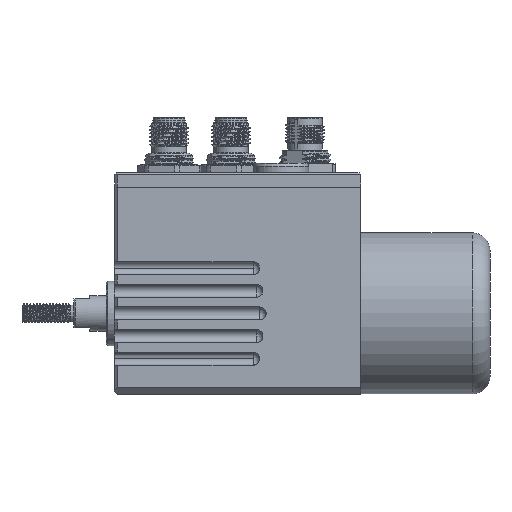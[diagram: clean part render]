
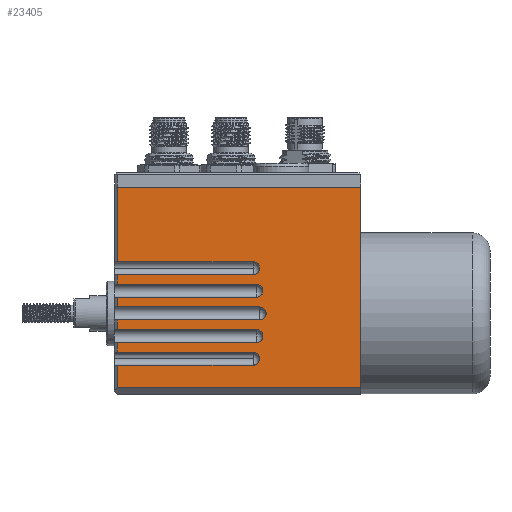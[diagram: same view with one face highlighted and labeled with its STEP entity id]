
A CAD part, front view. The second image highlights one B-rep face of the part: STEP entity #23405.
In plain terms, the highlighted planar face has unit normal (0, -1, 0).
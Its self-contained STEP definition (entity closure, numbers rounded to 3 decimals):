
#997=PLANE('',#25382);
#3446=FACE_OUTER_BOUND('',#4915,.T.);
#4915=EDGE_LOOP('',(#21233,#21234,#21235,#21236,#21237,#21238,#21239,#21240,
#21241,#21242,#21243,#21244,#21245,#21246,#21247,#21248,#21249,#21250,#21251,
#21252,#21253,#21254,#21255,#21256));
#5800=CIRCLE('',#25383,2.);
#5801=CIRCLE('',#25384,2.);
#5802=CIRCLE('',#25385,2.);
#5803=CIRCLE('',#25386,2.);
#5804=CIRCLE('',#25387,2.);
#7292=LINE('',#76170,#8788);
#7298=LINE('',#76181,#8794);
#7349=LINE('',#76341,#8845);
#7350=LINE('',#76344,#8846);
#7353=LINE('',#76350,#8849);
#7354=LINE('',#76352,#8850);
#7355=LINE('',#76354,#8851);
#7356=LINE('',#76356,#8852);
#7357=LINE('',#76360,#8853);
#7358=LINE('',#76362,#8854);
#7359=LINE('',#76364,#8855);
#7360=LINE('',#76367,#8856);
#7361=LINE('',#76371,#8857);
#7362=LINE('',#76373,#8858);
#7363=LINE('',#76375,#8859);
#7364=LINE('',#76379,#8860);
#7365=LINE('',#76381,#8861);
#7366=LINE('',#76383,#8862);
#7367=LINE('',#76386,#8863);
#8788=VECTOR('',#30268,10.);
#8794=VECTOR('',#30276,10.);
#8845=VECTOR('',#30389,10.);
#8846=VECTOR('',#30392,10.);
#8849=VECTOR('',#30397,10.);
#8850=VECTOR('',#30398,10.);
#8851=VECTOR('',#30399,10.);
#8852=VECTOR('',#30400,10.);
#8853=VECTOR('',#30403,10.);
#8854=VECTOR('',#30404,10.);
#8855=VECTOR('',#30405,10.);
#8856=VECTOR('',#30408,10.);
#8857=VECTOR('',#30411,10.);
#8858=VECTOR('',#30412,10.);
#8859=VECTOR('',#30413,10.);
#8860=VECTOR('',#30416,10.);
#8861=VECTOR('',#30417,10.);
#8862=VECTOR('',#30418,10.);
#8863=VECTOR('',#30421,10.);
#11114=VERTEX_POINT('',#76167);
#11115=VERTEX_POINT('',#76169);
#11119=VERTEX_POINT('',#76179);
#11196=VERTEX_POINT('',#76337);
#11197=VERTEX_POINT('',#76339);
#11198=VERTEX_POINT('',#76343);
#11200=VERTEX_POINT('',#76349);
#11201=VERTEX_POINT('',#76351);
#11202=VERTEX_POINT('',#76353);
#11203=VERTEX_POINT('',#76355);
#11204=VERTEX_POINT('',#76357);
#11205=VERTEX_POINT('',#76359);
#11206=VERTEX_POINT('',#76361);
#11207=VERTEX_POINT('',#76363);
#11208=VERTEX_POINT('',#76366);
#11209=VERTEX_POINT('',#76368);
#11210=VERTEX_POINT('',#76370);
#11211=VERTEX_POINT('',#76372);
#11212=VERTEX_POINT('',#76374);
#11213=VERTEX_POINT('',#76376);
#11214=VERTEX_POINT('',#76378);
#11215=VERTEX_POINT('',#76380);
#11216=VERTEX_POINT('',#76382);
#11217=VERTEX_POINT('',#76384);
#14488=EDGE_CURVE('',#11114,#11115,#7292,.T.);
#14494=EDGE_CURVE('',#11119,#11114,#7298,.T.);
#14574=EDGE_CURVE('',#11197,#11196,#7349,.T.);
#14575=EDGE_CURVE('',#11198,#11196,#7350,.T.);
#14578=EDGE_CURVE('',#11200,#11119,#7353,.T.);
#14579=EDGE_CURVE('',#11201,#11200,#7354,.T.);
#14580=EDGE_CURVE('',#11202,#11201,#7355,.T.);
#14581=EDGE_CURVE('',#11202,#11203,#7356,.T.);
#14582=EDGE_CURVE('',#11203,#11204,#5800,.T.);
#14583=EDGE_CURVE('',#11204,#11205,#7357,.T.);
#14584=EDGE_CURVE('',#11206,#11205,#7358,.T.);
#14585=EDGE_CURVE('',#11206,#11207,#7359,.T.);
#14586=EDGE_CURVE('',#11207,#11198,#5801,.T.);
#14587=EDGE_CURVE('',#11197,#11208,#7360,.T.);
#14588=EDGE_CURVE('',#11208,#11209,#5802,.T.);
#14589=EDGE_CURVE('',#11209,#11210,#7361,.T.);
#14590=EDGE_CURVE('',#11211,#11210,#7362,.T.);
#14591=EDGE_CURVE('',#11211,#11212,#7363,.T.);
#14592=EDGE_CURVE('',#11212,#11213,#5803,.T.);
#14593=EDGE_CURVE('',#11213,#11214,#7364,.T.);
#14594=EDGE_CURVE('',#11215,#11214,#7365,.T.);
#14595=EDGE_CURVE('',#11215,#11216,#7366,.T.);
#14596=EDGE_CURVE('',#11216,#11217,#5804,.T.);
#14597=EDGE_CURVE('',#11217,#11115,#7367,.T.);
#21233=ORIENTED_EDGE('',*,*,#14488,.F.);
#21234=ORIENTED_EDGE('',*,*,#14494,.F.);
#21235=ORIENTED_EDGE('',*,*,#14578,.F.);
#21236=ORIENTED_EDGE('',*,*,#14579,.F.);
#21237=ORIENTED_EDGE('',*,*,#14580,.F.);
#21238=ORIENTED_EDGE('',*,*,#14581,.T.);
#21239=ORIENTED_EDGE('',*,*,#14582,.T.);
#21240=ORIENTED_EDGE('',*,*,#14583,.T.);
#21241=ORIENTED_EDGE('',*,*,#14584,.F.);
#21242=ORIENTED_EDGE('',*,*,#14585,.T.);
#21243=ORIENTED_EDGE('',*,*,#14586,.T.);
#21244=ORIENTED_EDGE('',*,*,#14575,.T.);
#21245=ORIENTED_EDGE('',*,*,#14574,.F.);
#21246=ORIENTED_EDGE('',*,*,#14587,.T.);
#21247=ORIENTED_EDGE('',*,*,#14588,.T.);
#21248=ORIENTED_EDGE('',*,*,#14589,.T.);
#21249=ORIENTED_EDGE('',*,*,#14590,.F.);
#21250=ORIENTED_EDGE('',*,*,#14591,.T.);
#21251=ORIENTED_EDGE('',*,*,#14592,.T.);
#21252=ORIENTED_EDGE('',*,*,#14593,.T.);
#21253=ORIENTED_EDGE('',*,*,#14594,.F.);
#21254=ORIENTED_EDGE('',*,*,#14595,.T.);
#21255=ORIENTED_EDGE('',*,*,#14596,.T.);
#21256=ORIENTED_EDGE('',*,*,#14597,.T.);
#23405=ADVANCED_FACE('',(#3446),#997,.T.);
#25382=AXIS2_PLACEMENT_3D('',#76348,#30395,#30396);
#25383=AXIS2_PLACEMENT_3D('',#76358,#30401,#30402);
#25384=AXIS2_PLACEMENT_3D('',#76365,#30406,#30407);
#25385=AXIS2_PLACEMENT_3D('',#76369,#30409,#30410);
#25386=AXIS2_PLACEMENT_3D('',#76377,#30414,#30415);
#25387=AXIS2_PLACEMENT_3D('',#76385,#30419,#30420);
#30268=DIRECTION('',(0.,0.,1.));
#30276=DIRECTION('',(-1.,0.,0.));
#30389=DIRECTION('',(0.,0.,1.));
#30392=DIRECTION('',(-1.,0.,0.));
#30395=DIRECTION('center_axis',(0.,-1.,0.));
#30396=DIRECTION('ref_axis',(0.,0.,-1.));
#30397=DIRECTION('',(0.,0.,-1.));
#30398=DIRECTION('',(1.,0.,0.));
#30399=DIRECTION('',(0.,0.,1.));
#30400=DIRECTION('',(1.,0.,0.));
#30401=DIRECTION('center_axis',(0.,1.,0.));
#30402=DIRECTION('ref_axis',(0.,0.,
-1.));
#30403=DIRECTION('',(-1.,0.,0.));
#30404=DIRECTION('',(0.,0.,1.));
#30405=DIRECTION('',(1.,0.,0.));
#30406=DIRECTION('center_axis',(0.,1.,0.));
#30407=DIRECTION('ref_axis',(0.,0.,
-1.));
#30408=DIRECTION('',(1.,0.,0.));
#30409=DIRECTION('center_axis',(0.,1.,0.));
#30410=DIRECTION('ref_axis',(0.,0.,-1.));
#30411=DIRECTION('',(-1.,0.,0.));
#30412=DIRECTION('',(0.,0.,1.));
#30413=DIRECTION('',(1.,0.,0.));
#30414=DIRECTION('center_axis',(0.,1.,0.));
#30415=DIRECTION('ref_axis',(0.,0.,
-1.));
#30416=DIRECTION('',(-1.,0.,0.));
#30417=DIRECTION('',(0.,0.,1.));
#30418=DIRECTION('',(1.,0.,0.));
#30419=DIRECTION('center_axis',(0.,1.,0.));
#30420=DIRECTION('ref_axis',(0.,0.,
-1.));
#30421=DIRECTION('',(-1.,0.,0.));
#76167=CARTESIAN_POINT('',(0.8,-25.,-23.));
#76169=CARTESIAN_POINT('',(0.8,-25.,-16.));
#76170=CARTESIAN_POINT('',(0.8,-25.,19.5));
#76179=CARTESIAN_POINT('',(76.,-25.,-23.));
#76181=CARTESIAN_POINT('',(0.,-25.,-23.));
#76337=CARTESIAN_POINT('',(0.8,-25.,5.));
#76339=CARTESIAN_POINT('',(0.8,-25.,2.));
#76341=CARTESIAN_POINT('',(0.8,-25.,19.5));
#76343=CARTESIAN_POINT('',(43.8,-25.,5.));
#76344=CARTESIAN_POINT('',(21.9,-25.,5.));
#76348=CARTESIAN_POINT('Origin',(0.,-25.,39.));
#76349=CARTESIAN_POINT('',(76.,-25.,39.));
#76350=CARTESIAN_POINT('',(76.,-25.,-25.));
#76351=CARTESIAN_POINT('',(0.8,-25.,39.));
#76352=CARTESIAN_POINT('',(0.,-25.,39.));
#76353=CARTESIAN_POINT('',(0.8,-25.,16.));
#76354=CARTESIAN_POINT('',(0.8,-25.,19.5));
#76355=CARTESIAN_POINT('',(42.8,-25.,16.));
#76356=CARTESIAN_POINT('',(-2.6,-25.,16.));
#76357=CARTESIAN_POINT('',(42.8,-25.,12.));
#76358=CARTESIAN_POINT('Origin',(42.8,-25.,14.));
#76359=CARTESIAN_POINT('',(0.8,-25.,12.));
#76360=CARTESIAN_POINT('',(21.4,-25.,12.));
#76361=CARTESIAN_POINT('',(0.8,-25.,9.));
#76362=CARTESIAN_POINT('',(0.8,-25.,19.5));
#76363=CARTESIAN_POINT('',(43.8,-25.,9.));
#76364=CARTESIAN_POINT('',(-3.1,-25.,9.));
#76365=CARTESIAN_POINT('Origin',(43.8,-25.,7.));
#76366=CARTESIAN_POINT('',(44.8,-25.,2.));
#76367=CARTESIAN_POINT('',(-3.6,-25.,2.));
#76368=CARTESIAN_POINT('',(44.8,-25.,-2.));
#76369=CARTESIAN_POINT('Origin',(44.8,-25.,0.));
#76370=CARTESIAN_POINT('',(0.8,-25.,-2.));
#76371=CARTESIAN_POINT('',(22.4,-25.,-2.));
#76372=CARTESIAN_POINT('',(0.8,-25.,-5.));
#76373=CARTESIAN_POINT('',(0.8,-25.,19.5));
#76374=CARTESIAN_POINT('',(43.8,-25.,-5.));
#76375=CARTESIAN_POINT('',(-3.1,-25.,-5.));
#76376=CARTESIAN_POINT('',(43.8,-25.,-9.));
#76377=CARTESIAN_POINT('Origin',(43.8,-25.,-7.));
#76378=CARTESIAN_POINT('',(0.8,-25.,-9.));
#76379=CARTESIAN_POINT('',(21.9,-25.,-9.));
#76380=CARTESIAN_POINT('',(0.8,-25.,-12.));
#76381=CARTESIAN_POINT('',(0.8,-25.,19.5));
#76382=CARTESIAN_POINT('',(42.8,-25.,-12.));
#76383=CARTESIAN_POINT('',(-2.6,-25.,-12.));
#76384=CARTESIAN_POINT('',(42.8,-25.,-16.));
#76385=CARTESIAN_POINT('Origin',(42.8,-25.,-14.));
#76386=CARTESIAN_POINT('',(21.4,-25.,-16.));
